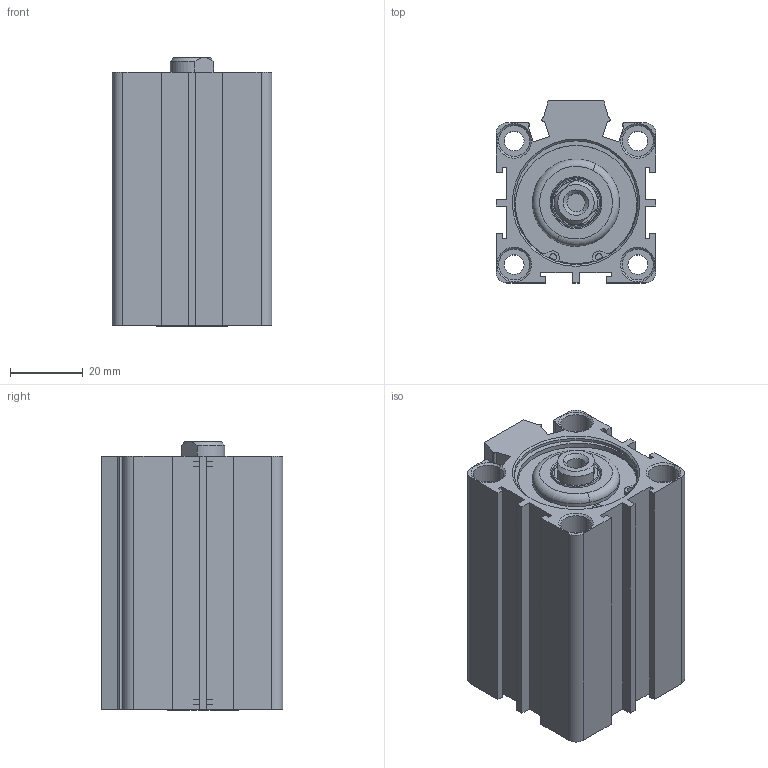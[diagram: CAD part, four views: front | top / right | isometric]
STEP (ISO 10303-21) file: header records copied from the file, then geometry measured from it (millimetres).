
FILE_DESCRIPTION (( 'STEP AP214' ), '1' );
FILE_NAME ('SDA_32_35_WEB.STEP', '2021-01-22T11:20:57', ( 'cagdas' ), ( '' ), 'SwSTEP 2.0', 'SolidWorks 2021', '' );
FILE_SCHEMA (( 'AUTOMOTIVE_DESIGN' ));
Length unit declared in the file: millimetre
Products named in the file (7): 20_MIL_WEB; SDA32ARKKAPAK; KASTAS-K52-12X16_5X3_6-4_8; SDA32ONKAPAKDINCPLASTIK; SDA32_BORU_WEB; SDA_32_35_WEB; basic internal retaining ring_am_B27.7M - 3BM1-36
Assembly tree (7 placements, depth 2):
  SDA_32_35_WEB
    SDA32_BORU_WEB
    SDA32ONKAPAKDINCPLASTIK
    KASTAS-K52-12X16_5X3_6-4_8
    SDA32ARKKAPAK
    20_MIL_WEB
    basic internal retaining ring_am_B27.7M - 3BM1-36  x2
Bounding box: 44 x 50 x 73.85 mm (x, y, z)
Volume: 75426.5 mm3; surface area: 42689.9 mm2
Topology: 7 solids, 7 shells, 467 faces, 1165 edges, 750 vertices
Faces by surface type: plane 178, cylinder 124, bspline 85, cone 76, torus 4
Entity records: 19570 total; most frequent: CARTESIAN_POINT 7109, ORIENTED_EDGE 2228, DIRECTION 1994, EDGE_CURVE 1114, VERTEX_POINT 716, AXIS2_PLACEMENT_3D 687, LINE 620, VECTOR 620
